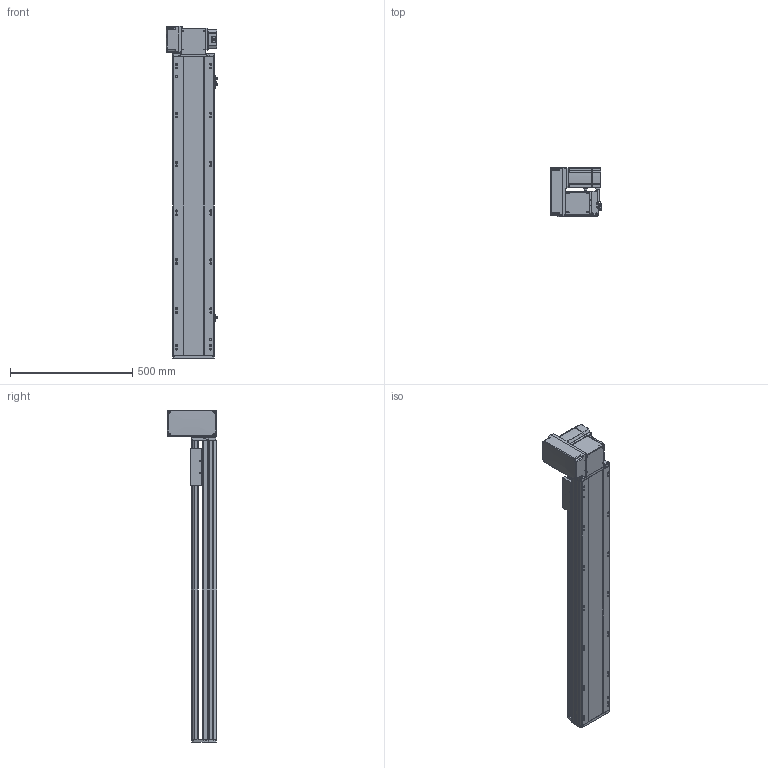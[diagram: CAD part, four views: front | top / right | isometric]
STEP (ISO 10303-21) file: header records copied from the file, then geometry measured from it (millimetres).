
FILE_DESCRIPTION (( 'STEP AP214' ), '1' );
FILE_NAME ('RTB17S-XX-950-LW-M75-C4.STEP', '2025-12-12T01:03:39', ( '' ), ( '' ), 'SwSTEP 2.0', 'SolidWorks 2018', '' );
FILE_SCHEMA (( 'AUTOMOTIVE_DESIGN' ));
Length unit declared in the file: millimetre
Products named in the file (15): RTB17S-L-004-賑釱^RTB17S-賑釱_RTB17S-XX-XX-LW-M75-C4; EE672^RTB17S-XX-XX-LW-M75-C4; RTB17S-XX-950-LW-M75-C4; RTB22S-GY-018P^RTB17S-LW-々湍釱蚾饜-750W_RTB17S-XX-XX-LW-M75-C4; RTB17S-L-001-耜醱啣^RTB17S-XX-XX-LW-M75-C4; RTB17S-賑釱^RTB17S-XX-XX-LW-M75-C4; RTB22S-GY-017P^RTB17S-LW-々湍釱蚾饜-750W_RTB17S-XX-XX-LW-M75-C4; RTB17S-LW-々湍釱蚾饜-750W^RTB17S-XX-XX-LW-M75-C4; RTH13-BL-012覜茼え俋离^RTB17S-賑釱_RTB17S-XX-XX-LW-M75-C4; RTB17-R-011菁釱^RTB17S-XX-XX-LW-M75-C4; RTB17S-L-007奻裔^RTB17S-XX-XX-LW-M75-C4; RTB22S-GY-005P^RTB17S-LW-々湍釱蚾饜-750W_RTB17S-XX-XX-LW-M75-C4; RTB17S-L-014-T20-P75--々湍釱^RTB17S-LW-々湍釱蚾饜-750W_RTB17S-XX-XX-LW-M75-C4; RTB22S-GY-008-M75--萇儂啣^RTB17S-LW-々湍釱蚾饜-750W_RTB17S-XX-XX-LW-M75-C4; 750W萇儂^RTB17S-XX-XX-LW-M75-C4
Assembly tree (17 placements, depth 3):
  RTB17S-XX-950-LW-M75-C4
    RTB17-R-011菁釱^RTB17S-XX-XX-LW-M75-C4
    EE672^RTB17S-XX-XX-LW-M75-C4  x3
    RTB17S-L-001-耜醱啣^RTB17S-XX-XX-LW-M75-C4
    RTB17S-賑釱^RTB17S-XX-XX-LW-M75-C4
      RTB17S-L-004-賑釱^RTB17S-賑釱_RTB17S-XX-XX-LW-M75-C4
      RTH13-BL-012覜茼え俋离^RTB17S-賑釱_RTB17S-XX-XX-LW-M75-C4
    RTB17S-L-007奻裔^RTB17S-XX-XX-LW-M75-C4
    750W萇儂^RTB17S-XX-XX-LW-M75-C4
    RTB17S-LW-々湍釱蚾饜-750W^RTB17S-XX-XX-LW-M75-C4
      RTB17S-L-014-T20-P75--々湍釱^RTB17S-LW-々湍釱蚾饜-750W_RTB17S-XX-XX-LW-M75-C4
      RTB22S-GY-005P^RTB17S-LW-々湍釱蚾饜-750W_RTB17S-XX-XX-LW-M75-C4
      RTB22S-GY-017P^RTB17S-LW-々湍釱蚾饜-750W_RTB17S-XX-XX-LW-M75-C4  x2
      RTB22S-GY-008-M75--萇儂啣^RTB17S-LW-々湍釱蚾饜-750W_RTB17S-XX-XX-LW-M75-C4
      RTB22S-GY-018P^RTB17S-LW-々湍釱蚾饜-750W_RTB17S-XX-XX-LW-M75-C4
Bounding box: 210.4 x 201.5 x 1357.5 mm (x, y, z)
Volume: 11888581.1 mm3; surface area: 2009502.6 mm2
Topology: 17 solids, 17 shells, 2089 faces, 5782 edges, 3734 vertices
Faces by surface type: plane 970, cylinder 703, bspline 294, cone 110, sphere 8, torus 4
Entity records: 58102 total; most frequent: CARTESIAN_POINT 17046, ORIENTED_EDGE 8408, DIRECTION 7862, EDGE_CURVE 4204, AXIS2_PLACEMENT_3D 2754, VERTEX_POINT 2738, VECTOR 2354, LINE 2354
